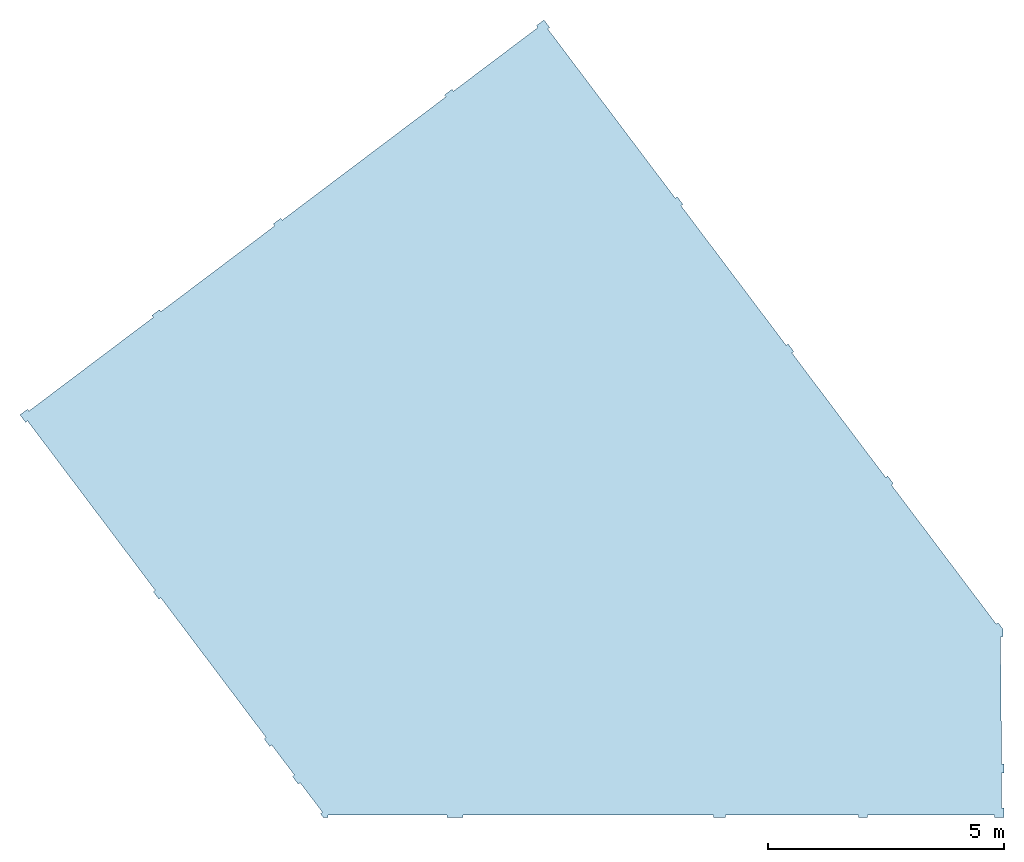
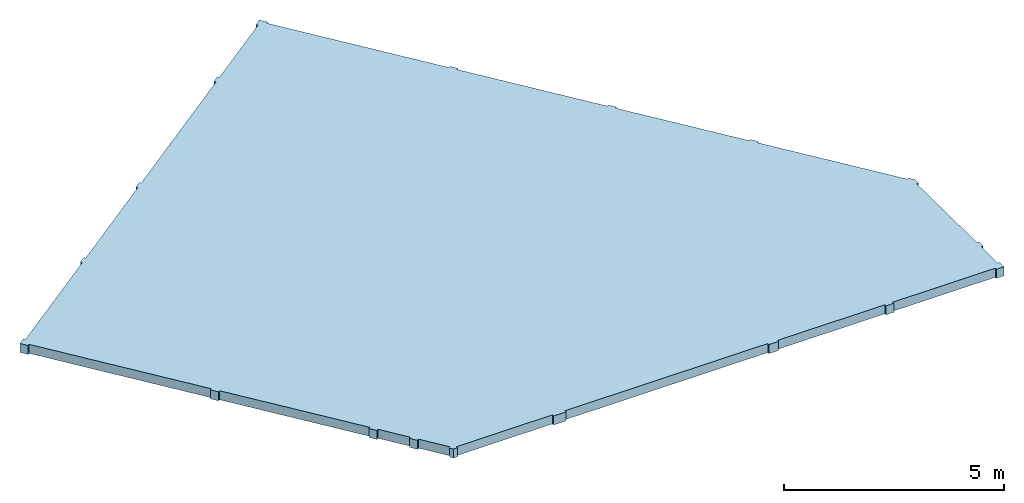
# One storey: 1 slab.
"""IFC2X3 building model written with IfcOpenShell, lengths in millimetres."""

from ifc_helpers import new_model, entity, si_unit, converted_unit, money_unit, direction, frame, origin_with_axes, place, context, subcontext, project, spatial, polyline, outline, extrude, material, layer, layer_set, layer_usage, type_object, element, save


model = new_model("IFC2X3")

# Units and contexts
model_context = context("Model", 3, precision=1e-05, world=origin_with_axes(), true_north=direction((0.0, 1.0)))
body_context = subcontext(model_context, "Body", "Model", "MODEL_VIEW")
ifc_project = project(units=[si_unit("LENGTHUNIT", "METRE", prefix="MILLI"), si_unit("AREAUNIT", "SQUARE_METRE"), si_unit("VOLUMEUNIT", "CUBIC_METRE"), converted_unit("PLANEANGLEUNIT", "DEGREE", entity("IfcPlaneAngleMeasure", 0.0174532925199), si_unit("PLANEANGLEUNIT", "RADIAN"), dimensions=[0, 0, 0, 0, 0, 0, 0]), si_unit("SOLIDANGLEUNIT", "STERADIAN"), money_unit("EUR"), converted_unit("TIMEUNIT", "Year", entity("IfcTimeMeasure", 31556926.0), si_unit("TIMEUNIT", "SECOND"), dimensions=[0, 0, 0, 0, 0, 0, 0]), si_unit("MASSUNIT", "GRAM"), si_unit("THERMODYNAMICTEMPERATUREUNIT", "DEGREE_CELSIUS"), si_unit("LUMINOUSINTENSITYUNIT", "LUMEN")], contexts=[model_context])

# Site, building, storey
site_placement = place(None, origin_with_axes())
site = spatial("IfcSite", under=ifc_project, at=site_placement, Name="Default Site", CompositionType="ELEMENT")
building_placement = place(site_placement, origin_with_axes())
building = spatial("IfcBuilding", under=site, at=building_placement, Name="Default Building", CompositionType="ELEMENT")
storey_placement = place(building_placement, frame((0.0, 0.0, 3950.0), z_axis=(0.0, 0.0, 1.0), x_axis=(1.0, 0.0, 0.0)))
storey = spatial("IfcBuildingStorey", under=building, at=storey_placement, Name="REZ JARDIN LOISIRS", CompositionType="ELEMENT", Elevation=3950.0)

# Slab
ifc_material = material(Name="Struct. - B.A. coulé")
ifc_layer = layer(ifc_material, 250.0, ventilated="UNKNOWN")
ifc_layer_set = layer_set([ifc_layer], Name="Struct. - B.A. coulé 250")
ifc_layer_usage = layer_usage(ifc_layer_set, "AXIS3", "NEGATIVE", 250.0)
slab_type = type_object("IfcSlabType", Name="Struct. - B.A. coulé 250", PredefinedType="NOTDEFINED")
slab_placement = place(storey_placement, frame((12226.8248031, 24750.6710426, -200.0), z_axis=(0.0, 0.0, 1.0), x_axis=(1.0, 0.0, 0.0)))
element("IfcSlab", 1, at=slab_placement, inside=storey, type_object=slab_type, material=ifc_layer_usage, Name="Dalle-LOISIR", context=body_context, shape_type="SweptSolid", body=[
    extrude(outline(polyline([(0.0, 0.0), (120.363082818, -159.727152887), (160.294715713, -129.636382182), (2863.0459821, -3716.30850364), (2823.1143492, -3746.39927435), (2943.47743202, -3906.12642724), (2983.40906491, -3876.03565653), (5212.53179301, -6834.18149662), (5172.60016012, -6864.27226733), (5292.96324294, -7023.99942021), (5332.89487583, -6993.90864951), (5814.34689645, -7632.81726105), (5774.41526355, -7662.90772111), (5894.77803572, -7822.63487399), (5934.70997927, -7792.54410329), (6409.064824, -8422.03434057), (6369.13288046, -8452.12511128), (6429.78412903, -8532.61185741), (6529.54036317, -8532.61185741), (6529.54036317, -8482.97480699), (9048.09652323, -8482.97480699), (9048.09652323, -8532.61185659), (9380.42459535, -8532.61185659), (9380.42459535, -8482.97480699), (14693.4249195, -8482.97480699), (14693.4249195, -8532.61185957), (14943.8520518, -8532.61185957), (14943.8520518, -8482.97480699), (17759.7593426, -8482.97480699), (17759.7593426, -8532.61185668), (17959.7593456, -8532.61185668), (17959.7593456, -8482.97480699), (20647.4267838, -8482.97480699), (20647.4267838, -8532.61185741), (20847.4266665, -8532.61185741), (20847.4185895, -8332.61197476), (20796.1723571, -8332.61849847), (20797.4267153, -7588.61453047), (20847.4266665, -7588.6144616), (20847.54254, -7401.40726488), (20797.4267152, -7401.72133929), (20773.418897, -4701.81005727), (20823.8347542, -4701.49412328), (20822.8015227, -4536.61572421), (20722.2372804, -4403.16266064), (20682.6048062, -4433.02789735), (18463.4266984, -1488.0789026), (18503.3583313, -1457.98813189), (18382.9952485, -1298.26097901), (18343.0636156, -1328.35174971), (16354.0650078, 1311.13847318), (16393.9966407, 1341.22924389), (16273.6335579, 1500.95639677), (16233.701925, 1470.86562607), (14004.5791969, 4429.01146616), (14044.5108298, 4459.10223686), (13924.147747, 4618.82938975), (13884.2161141, 4588.73861904), (11181.4648477, 8175.41074051), (11221.3964806, 8205.50151121), (11101.0337084, 8365.2286641), (10941.3065555, 8244.86558128), (10971.3973263, 8204.93394839), (9182.4535867, 6856.86816639), (9152.362816, 6896.80010994), (8992.63597377, 6776.43702712), (9022.72643382, 6736.50539423), (5556.64852092, 4124.6281746), (5526.55775022, 4164.5598075), (5366.83059733, 4044.19672468), (5396.92136804, 4004.26509178), (2985.04216715, 2186.78353532), (2954.95139644, 2226.71547887), (2795.22424356, 2106.35239605), (2825.31501426, 2066.42076316), (189.817923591, 80.4311392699), (159.727152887, 120.362772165), (0.0, 0.0)])), frame((0.0, 0.0, -250.0), z_axis=(0.0, 0.0, 1.0), x_axis=(1.0, 0.0, 0.0)), (0.0, 0.0, 1.0), 250.0),
])

save(model, "model.ifc")
